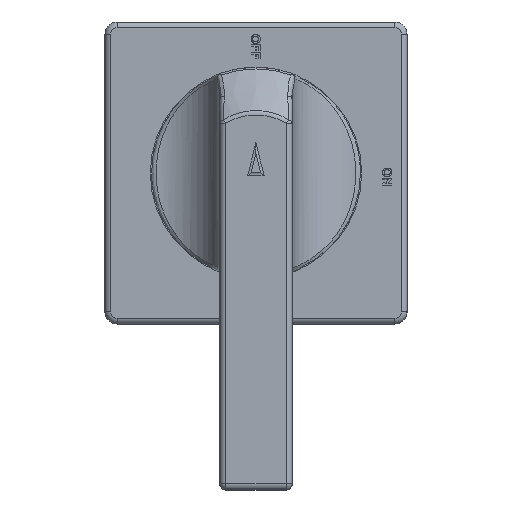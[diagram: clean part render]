
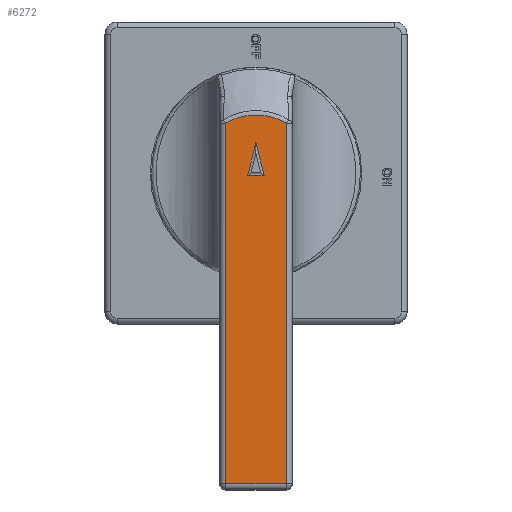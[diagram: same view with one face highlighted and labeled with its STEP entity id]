
A CAD part, top view. The second image highlights one B-rep face of the part: STEP entity #6272.
In plain terms, the highlighted planar face has unit normal (0, 0, 1).
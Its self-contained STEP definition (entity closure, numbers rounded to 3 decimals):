
#41 = CIRCLE ( 'NONE', #4071, 19.172 ) ;
#372 = VERTEX_POINT ( 'NONE', #759 ) ;
#379 = DIRECTION ( 'NONE',  ( 0., 1., 0. ) ) ;
#557 = VERTEX_POINT ( 'NONE', #3084 ) ;
#759 = CARTESIAN_POINT ( 'NONE',  ( 10., -103., 57. ) ) ;
#812 = VERTEX_POINT ( 'NONE', #1945 ) ;
#950 = DIRECTION ( 'NONE',  ( 1., 0., 0. ) ) ;
#1029 = AXIS2_PLACEMENT_3D ( 'NONE', #5643, #5455, #6017 ) ;
#1033 = LINE ( 'NONE', #5551, #6874 ) ;
#1054 = EDGE_CURVE ( 'NONE', #372, #6488, #7054, .T. ) ;
#1081 = EDGE_CURVE ( 'NONE', #812, #372, #1033, .T. ) ;
#1322 = CARTESIAN_POINT ( 'NONE',  ( 10., 16.357, 57. ) ) ;
#1346 = DIRECTION ( 'NONE',  ( -1., 0., 0. ) ) ;
#1534 = EDGE_CURVE ( 'NONE', #1686, #557, #3673, .T. ) ;
#1686 = VERTEX_POINT ( 'NONE', #5422 ) ;
#1746 = CARTESIAN_POINT ( 'NONE',  ( -0.037, 10.017, 57. ) ) ;
#1945 = CARTESIAN_POINT ( 'NONE',  ( -10., -103., 57. ) ) ;
#2083 = DIRECTION ( 'NONE',  ( 0.241, 0.971, 0. ) ) ;
#2483 = VECTOR ( 'NONE', #2774, 1000. ) ;
#2485 = LINE ( 'NONE', #2669, #5349 ) ;
#2667 = ORIENTED_EDGE ( 'NONE', *, *, #1534, .T. ) ;
#2669 = CARTESIAN_POINT ( 'NONE',  ( 2.395, 0.21, 57. ) ) ;
#2687 = CARTESIAN_POINT ( 'NONE',  ( -10., -105., 57. ) ) ;
#2750 = DIRECTION ( 'NONE',  ( 0.241, -0.971, 0. ) ) ;
#2774 = DIRECTION ( 'NONE',  ( 0., -1., 0. ) ) ;
#2820 = EDGE_CURVE ( 'NONE', #4324, #1686, #2485, .T. ) ;
#3084 = CARTESIAN_POINT ( 'NONE',  ( -2.738, -0.872, 57. ) ) ;
#3100 = ORIENTED_EDGE ( 'NONE', *, *, #3360, .T. ) ;
#3360 = EDGE_CURVE ( 'NONE', #6488, #6388, #41, .T. ) ;
#3603 = CARTESIAN_POINT ( 'NONE',  ( -1.623, -0.872, 57. ) ) ;
#3673 = LINE ( 'NONE', #3603, #4472 ) ;
#4071 = AXIS2_PLACEMENT_3D ( 'NONE', #5865, #6807, #6264 ) ;
#4134 = EDGE_CURVE ( 'NONE', #557, #4324, #4623, .T. ) ;
#4324 = VERTEX_POINT ( 'NONE', #1746 ) ;
#4397 = ORIENTED_EDGE ( 'NONE', *, *, #2820, .T. ) ;
#4452 = LINE ( 'NONE', #2687, #2483 ) ;
#4472 = VECTOR ( 'NONE', #1346, 1000. ) ;
#4576 = EDGE_LOOP ( 'NONE', ( #4798, #4397, #2667 ) ) ;
#4623 = LINE ( 'NONE', #6567, #5960 ) ;
#4798 = ORIENTED_EDGE ( 'NONE', *, *, #4134, .T. ) ;
#4872 = PLANE ( 'NONE',  #1029 ) ;
#4895 = CARTESIAN_POINT ( 'NONE',  ( 10., 16., 57. ) ) ;
#4966 = EDGE_LOOP ( 'NONE', ( #7014, #5283, #6019, #3100 ) ) ;
#5283 = ORIENTED_EDGE ( 'NONE', *, *, #1081, .T. ) ;
#5349 = VECTOR ( 'NONE', #2750, 1000. ) ;
#5422 = CARTESIAN_POINT ( 'NONE',  ( 2.663, -0.872, 57. ) ) ;
#5455 = DIRECTION ( 'NONE',  ( 0., 0., 1. ) ) ;
#5551 = CARTESIAN_POINT ( 'NONE',  ( 12., -103., 57. ) ) ;
#5552 = VECTOR ( 'NONE', #379, 1000. ) ;
#5632 = FACE_BOUND ( 'NONE', #4576, .T. ) ;
#5643 = CARTESIAN_POINT ( 'NONE',  ( 0., 0., 57. ) ) ;
#5865 = CARTESIAN_POINT ( 'NONE',  ( 0., 0., 57. ) ) ;
#5960 = VECTOR ( 'NONE', #2083, 1000. ) ;
#6017 = DIRECTION ( 'NONE',  ( 1., 0., 0. ) ) ;
#6019 = ORIENTED_EDGE ( 'NONE', *, *, #1054, .T. ) ;
#6150 = FACE_OUTER_BOUND ( 'NONE', #4966, .T. ) ;
#6264 = DIRECTION ( 'NONE',  ( 1., 0., 0. ) ) ;
#6272 = ADVANCED_FACE ( 'NONE', ( #5632, #6150 ), #4872, .T. ) ;
#6388 = VERTEX_POINT ( 'NONE', #6647 ) ;
#6488 = VERTEX_POINT ( 'NONE', #1322 ) ;
#6567 = CARTESIAN_POINT ( 'NONE',  ( -0.884, 6.605, 57. ) ) ;
#6647 = CARTESIAN_POINT ( 'NONE',  ( -10., 16.357, 57. ) ) ;
#6807 = DIRECTION ( 'NONE',  ( 0., 0., 1. ) ) ;
#6874 = VECTOR ( 'NONE', #950, 1000. ) ;
#7014 = ORIENTED_EDGE ( 'NONE', *, *, #7238, .T. ) ;
#7054 = LINE ( 'NONE', #4895, #5552 ) ;
#7238 = EDGE_CURVE ( 'NONE', #6388, #812, #4452, .T. ) ;
